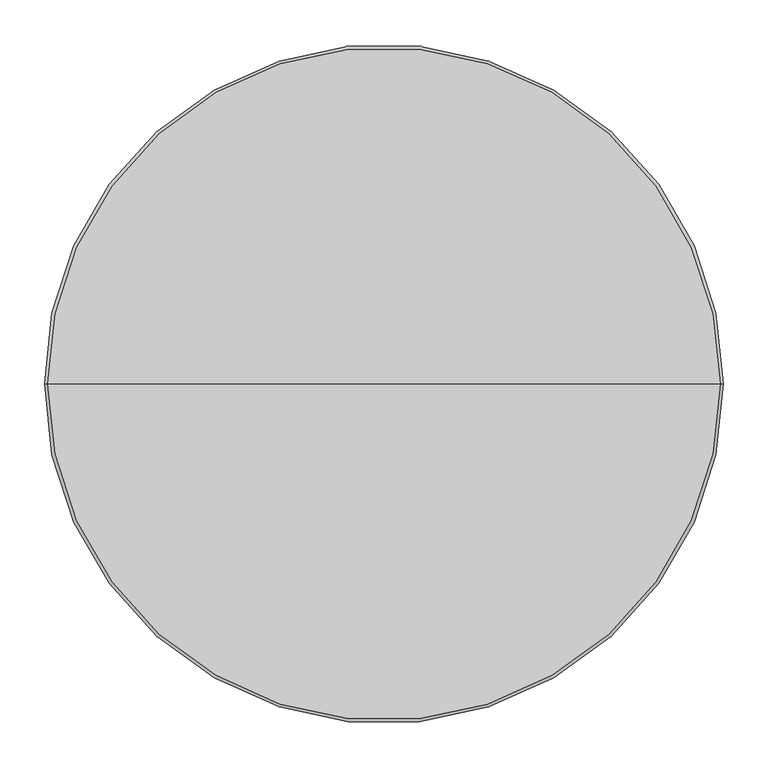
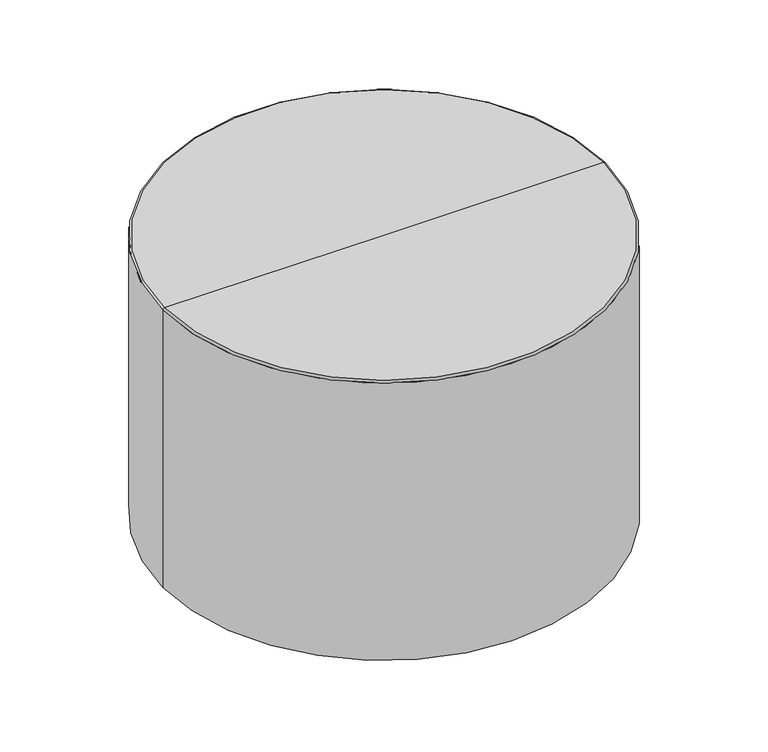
"""IFC4 building model written with IfcOpenShell, lengths in millimetres: furniture geometry, StanceHC-Drum_Table_Upholstered : DRT-30D-20-H."""

from ifc_helpers import new_model, si_unit, point, frame, frame_2d, origin, origin_with_axes, place, context, project, spatial, circle_curve, ellipse_curve, trimmed, segment, composite_curve, outline, extrude, source, transform, mapped, element, save
from ifc_brep_helpers import plane_surface, cylinder_surface, revolved_surface, advanced_brep


def furniture_8fdf35c3(model_context):
    return source(origin(), model_context, "Body", "SolidModel", [
        extrude(outline(composite_curve([segment(trimmed(circle_curve(frame_2d((0.0, 319.9664845)), 12.7), [point((-12.7, 319.9664845))], [point((12.7, 319.9664845))], False, "CARTESIAN"), True, "CONTINUOUS"), segment(trimmed(circle_curve(frame_2d((0.0, 319.9664845)), 12.7), [point((12.7, 319.9664845))], [point((-12.7, 319.9664845))], False, "CARTESIAN"), True, "CONTINUOUS")], self_intersect=False)), origin_with_axes(), (0.0, 0.0, 1.0), 4.7625),
        extrude(outline(composite_curve([segment(trimmed(circle_curve(frame_2d((0.0, -319.9664845)), 12.7), [point((-12.7, -319.9664845))], [point((12.7, -319.9664845))], False, "CARTESIAN"), True, "CONTINUOUS"), segment(trimmed(circle_curve(frame_2d((0.0, -319.9664845)), 12.7), [point((12.7, -319.9664845))], [point((-12.7, -319.9664845))], False, "CARTESIAN"), True, "CONTINUOUS")], self_intersect=False)), origin_with_axes(), (0.0, 0.0, 1.0), 4.7625),
        extrude(outline(composite_curve([segment(trimmed(circle_curve(frame_2d((323.8496404, 0.0)), 12.7), [point((311.1496404, 0.0))], [point((336.5496404, 0.0))], False, "CARTESIAN"), True, "CONTINUOUS"), segment(trimmed(circle_curve(frame_2d((323.8496404, 0.0)), 12.7), [point((336.5496404, 0.0))], [point((311.1496404, 0.0))], False, "CARTESIAN"), True, "CONTINUOUS")], self_intersect=False)), origin_with_axes(), (0.0, 0.0, 1.0), 4.7625),
        extrude(outline(composite_curve([segment(trimmed(circle_curve(frame_2d((-323.8496404, 0.0)), 12.7), [point((-336.5496404, 0.0))], [point((-311.1496404, 0.0))], False, "CARTESIAN"), True, "CONTINUOUS"), segment(trimmed(circle_curve(frame_2d((-323.8496404, 0.0)), 12.7), [point((-311.1496404, 0.0))], [point((-336.5496404, 0.0))], False, "CARTESIAN"), True, "CONTINUOUS")], self_intersect=False)), origin_with_axes(), (0.0, 0.0, 1.0), 4.7625),
        advanced_brep(
        [(-381.0, 0.0, 4.7625), (381.0, 0.0, 4.7625), (0.0, 0.0, 4.7625), (-381.0, 0.0, 509.6389933), (381.0, 0.0, 509.6389933), (-377.8764933, 0.0, 512.7625), (377.8764933, 0.0, 512.7625), (0.0, 0.0, 512.7625)],
        [
            (0, 1, circle_curve(frame((0.0, 0.0, 4.7625), z_axis=(0.0, 0.0, -1.0), x_axis=(1.0, 0.0, 0.0)), 381.0)),
            (1, 2),
            (2, 0),
            (1, 0, circle_curve(frame((0.0, 0.0, 4.7625), z_axis=(0.0, 0.0, -1.0), x_axis=(1.0, 0.0, 0.0)), 381.0)),
            (3, 4, circle_curve(frame((0.0, 0.0, 509.6389933), z_axis=(0.0, 0.0, -1.0), x_axis=(1.0, 0.0, 0.0)), 381.0)),
            (4, 1),
            (0, 3),
            (4, 3, circle_curve(frame((0.0, 0.0, 509.6389933), z_axis=(0.0, 0.0, -1.0), x_axis=(1.0, 0.0, 0.0)), 381.0)),
            (5, 6, circle_curve(frame((0.0, 0.0, 512.7625), z_axis=(0.0, 0.0, -1.0), x_axis=(1.0, 0.0, 0.0)), 377.8764933)),
            (6, 4, circle_curve(frame((377.8764933, 0.0, 509.6389933), z_axis=(0.0, 1.0, 0.0), x_axis=(1.0, 0.0, 0.0)), 3.1235067)),
            (3, 5, circle_curve(frame((-377.8764933, 0.0, 509.6389933), z_axis=(0.0, 1.0, 0.0), x_axis=(-1.0, 0.0, 0.0)), 3.1235067)),
            (6, 5, circle_curve(frame((0.0, 0.0, 512.7625), z_axis=(0.0, 0.0, -1.0), x_axis=(1.0, 0.0, 0.0)), 377.8764933)),
            (7, 6),
            (5, 7),
        ],
        [
            plane_surface(frame((0.0, 0.0, 4.7625), z_axis=(0.0, 0.0, -1.0), x_axis=(1.0, 0.0, 0.0))),
            cylinder_surface(frame((0.0, 0.0, 608.0125), z_axis=(0.0, 0.0, 1.0), x_axis=(1.0, 0.0, 0.0)), 381.0),
            revolved_surface(trimmed(ellipse_curve(frame((377.8764933, 0.0, 509.6389933), z_axis=(0.0, -1.0, 0.0), x_axis=(1.0, 0.0, 0.0)), 3.1235067, 3.1235067), [point((381.0, 0.0, 509.6389933))], [point((377.8764933, 0.0, 512.7625))], True, "CARTESIAN"), (0.0, 0.0, 608.0125), (0.0, 0.0, 1.0)),
            plane_surface(frame((0.0, 0.0, 512.7625), z_axis=(0.0, 0.0, 1.0), x_axis=(1.0, 0.0, 0.0))),
        ],
        [
            (0, [[1, 2, 3]]),
            (0, [[4, -3, -2]]),
            (1, [[5, 6, -1, 7]]),
            (1, [[8, -7, -4, -6]]),
            (2, [[9, 10, -5, 11]]),
            (2, [[12, -11, -8, -10]]),
            (3, [[13, -9, 14]]),
            (3, [[-14, -12, -13]]),
        ],
    ),
    ])


if __name__ == "__main__":
    model = new_model("IFC4")
    model_context = context("Model", 3, world=origin())
    ifc_project = project(units=[si_unit("LENGTHUNIT", "METRE", prefix="MILLI")], contexts=[model_context])
    site = spatial("IfcSite", under=ifc_project)
    building = spatial("IfcBuilding", under=site)
    placement = place(None, origin())
    furniture_shape = furniture_8fdf35c3(model_context)
    element("IfcFurniture", 1, ObjectType="StanceHC-Drum_Table_Upholstered : DRT-30D-20-H", at=placement, inside=building, context=model_context, shape_type="MappedRepresentation", body=[
        mapped(furniture_shape, transform((0.0, 0.0, 0.0), x_axis=(1.0, 0.0, 0.0), y_axis=(0.0, 1.0, 0.0), z_axis=(0.0, 0.0, 1.0))),
    ])
    save(model, "model.ifc")
